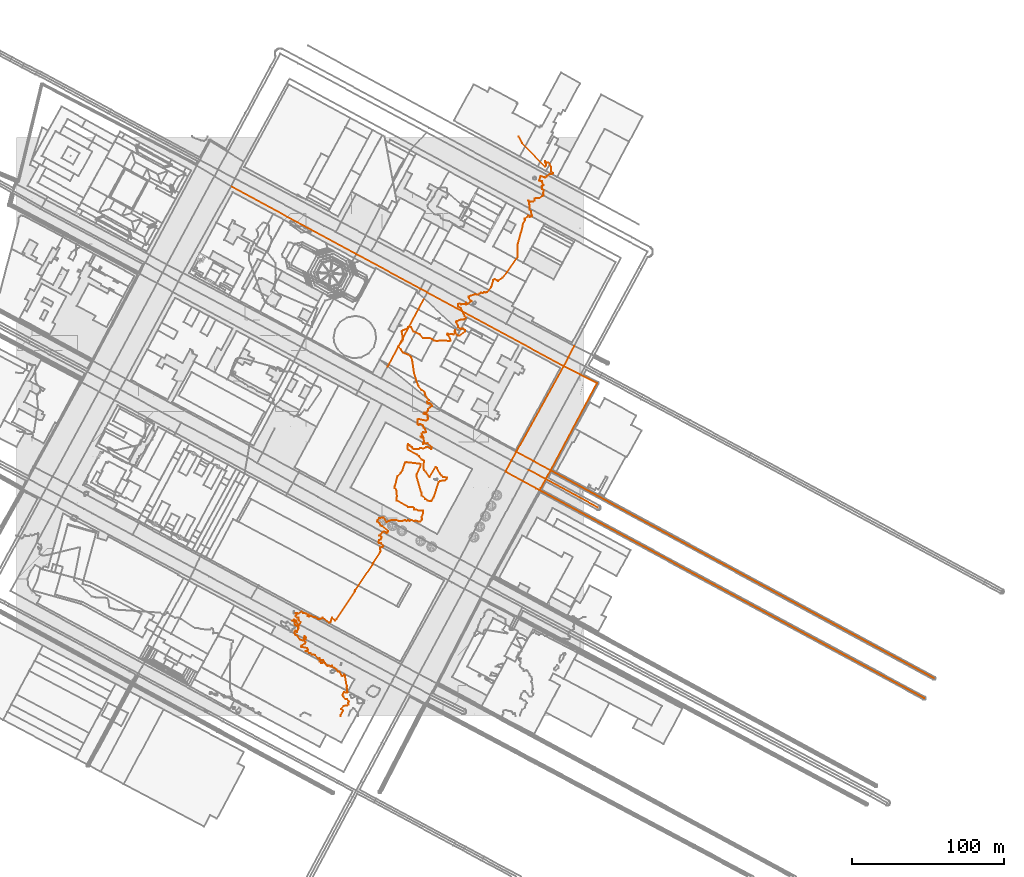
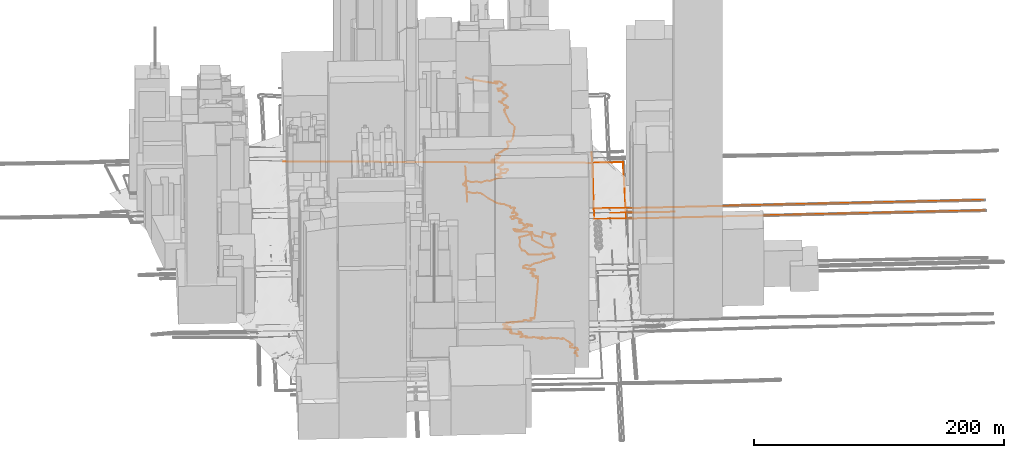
# Not in any storey, part 66 of 76: 14 proxies.
"""IFC2X3 model written with IfcOpenShell, lengths in metres."""

import ifcopenshell
import ifcopenshell.guid

model = None  # the IFC model being written
_history = None  # IfcOwnerHistory: only IFC2X3 demands one
_inside = {}  # id of a spatial element -> (the spatial element, [elements in it])
_under = {}  # id of a project, library or spatial element -> (it, [spatial elements below it])
_declared = {}  # id of a project -> (the project, [libraries it declares])
_typed = {}  # id of a type object -> (the type object, [elements of that type])
_made_of = {}  # id of a material, layer set ... -> (it, [elements and type objects made of it])


def new_model(schema):
    """Start an empty IFC model of exactly this schema.

    Asked for "IFC4X3", IfcOpenShell would pick the latest addendum, in which some entities
    have other attributes; the version numbers below select the first issue.
    IFC2X3 requires an IfcOwnerHistory on every rooted entity: one is made here for all.
    """
    global model, _history
    if schema == "IFC4X3":
        model = ifcopenshell.file(schema_version=(4, 3, 0, 0))
    else:
        model = ifcopenshell.file(schema=schema)
    _inside.clear()
    _under.clear()
    _declared.clear()
    _typed.clear()
    _made_of.clear()
    _history = None
    if model.schema == "IFC2X3":
        org = make("IfcOrganization", Name="unknown")
        user = make(
            "IfcPersonAndOrganization",
            ThePerson=make("IfcPerson", FamilyName="unknown"),
            TheOrganization=org,
        )
        app = make(
            "IfcApplication",
            ApplicationDeveloper=org,
            Version="unknown",
            ApplicationFullName="unknown",
            ApplicationIdentifier="unknown",
        )
        _history = make(
            "IfcOwnerHistory",
            OwningUser=user,
            OwningApplication=app,
            ChangeAction="ADDED",
            CreationDate=0,
        )
    return model


def make(cls, **values):
    """One entity of the class cls with the attributes given. An attribute that is None is left unset."""
    return model.create_entity(
        cls, **{name: value for name, value in values.items() if value is not None}
    )


def entity(cls, *values):
    """Any entity or typed value of the class cls, its attributes in the order of the schema. None: left unset."""
    e = model.create_entity(cls)
    for i, value in enumerate(values):
        if value is not None:
            e[i] = value
    return e


def rooted(cls, **values):
    """An entity with a GlobalId (a new one), such as an element, a storey or a relation."""
    return make(cls, GlobalId=ifcopenshell.guid.new(), OwnerHistory=_history, **values)


def si_unit(unit_type, name, prefix=None):
    """IfcSIUnit, for example si_unit("LENGTHUNIT", "METRE", prefix="MILLI")."""
    return make("IfcSIUnit", UnitType=unit_type, Prefix=prefix, Name=name)


def assignment(units):
    """IfcUnitAssignment: the units of a project."""
    return None if units is None else make("IfcUnitAssignment", Units=units)


def point(xyz):
    """IfcCartesianPoint."""
    return None if xyz is None else make("IfcCartesianPoint", Coordinates=xyz)


def direction(xyz):
    """IfcDirection."""
    return None if xyz is None else make("IfcDirection", DirectionRatios=xyz)


def frame(location, z_axis=None, x_axis=None):
    """IfcAxis2Placement3D, a coordinate frame: its origin and axes. An axis left out is left unset."""
    return make(
        "IfcAxis2Placement3D",
        Location=point(location),
        Axis=direction(z_axis),
        RefDirection=direction(x_axis),
    )


def origin_with_axes():
    """The frame at (0, 0, 0) with the z axis (0, 0, 1) and the x axis (1, 0, 0) written out."""
    return frame((0.0, 0.0, 0.0), z_axis=(0.0, 0.0, 1.0), x_axis=(1.0, 0.0, 0.0))


def place(relative_to, where):
    """IfcLocalPlacement: puts the frame where relative to a parent placement (None: the world)."""
    return make(
        "IfcLocalPlacement", PlacementRelTo=relative_to, RelativePlacement=where
    )


def context(
    kind, dimensions, precision=None, world=None, true_north=None, identifier=None
):
    """IfcGeometricRepresentationContext, for example the 3D "Model" context."""
    return make(
        "IfcGeometricRepresentationContext",
        ContextIdentifier=identifier,
        ContextType=kind,
        CoordinateSpaceDimension=dimensions,
        Precision=precision,
        WorldCoordinateSystem=world,
        TrueNorth=true_north,
    )


def subcontext(parent, identifier, kind, view, scale=None):
    """IfcGeometricRepresentationSubContext, for example "Body" below "Model"."""
    return make(
        "IfcGeometricRepresentationSubContext",
        ContextIdentifier=identifier,
        ContextType=kind,
        ParentContext=parent,
        TargetScale=scale,
        TargetView=view,
    )


def project(units=None, contexts=None):
    """IfcProject with its units and contexts."""
    return rooted(
        "IfcProject",
        Name="project",
        RepresentationContexts=contexts,
        UnitsInContext=assignment(units),
    )


def shape(context_of_items, identifier, shape_type, items):
    """IfcShapeRepresentation: the items that make up one representation, for example the "Body"."""
    return make(
        "IfcShapeRepresentation",
        ContextOfItems=context_of_items,
        RepresentationIdentifier=identifier,
        RepresentationType=shape_type,
        Items=items,
    )


def made_of(thing, what):
    """Note that an element or type object is made of a material, layer set ...; save() writes the relation."""
    if what is not None:
        _made_of.setdefault(what.id(), (what, []))[1].append(thing)
    return thing


def element(
    cls,
    number,
    at=None,
    inside=None,
    cuts=None,
    type_object=None,
    material=None,
    context=None,
    identifier="Body",
    shape_type=None,
    held_by="IfcProductDefinitionShape",
    body=None,
    shapes=None,
    **own,
):
    """One element of the class cls, such as IfcWall. Its Tag is "e" and its number.

    at: its placement. inside: the storey or other place that contains it. cuts: it is an
    opening in that element (IfcRelVoidsElement). A single representation is given by context,
    identifier, shape_type and body (its items); several are given by shapes. held_by: the class
    of the entity that holds the representations. save() writes the other relations.
    """
    e = rooted(cls, Tag="e%d" % number, ObjectPlacement=at, **own)
    if body is not None:
        shapes = [shape(context, identifier, shape_type, body)]
    if shapes is not None:
        e.Representation = make(held_by, Representations=shapes)
    if inside is not None:
        _inside.setdefault(inside.id(), (inside, []))[1].append(e)
    if cuts is not None:
        rooted(
            "IfcRelVoidsElement", RelatingBuildingElement=cuts, RelatedOpeningElement=e
        )
    if type_object is not None:
        _typed.setdefault(type_object.id(), (type_object, []))[1].append(e)
    return made_of(e, material)


def aggregate(whole, parts):
    """IfcRelAggregates: a whole, such as a stair, and the parts it consists of."""
    return rooted("IfcRelAggregates", RelatingObject=whole, RelatedObjects=parts)


def save(model, path):
    """Write the relations noted so far, then the file.

    IfcRelAggregates (storeys below a building ...), IfcRelContainedInSpatialStructure (elements
    in a storey), IfcRelDefinesByType, IfcRelAssociatesMaterial and IfcRelDeclares: one each for
    every whole, place, type object, material and project.
    """
    for whole, parts in _under.values():
        aggregate(whole, parts)
    for where, things in _inside.values():
        rooted(
            "IfcRelContainedInSpatialStructure",
            RelatedElements=things,
            RelatingStructure=where,
        )
    for kind, things in _typed.values():
        rooted("IfcRelDefinesByType", RelatedObjects=things, RelatingType=kind)
    for what, things in _made_of.values():
        rooted("IfcRelAssociatesMaterial", RelatedObjects=things, RelatingMaterial=what)
    for by, libraries in _declared.values():
        rooted("IfcRelDeclares", RelatingContext=by, RelatedDefinitions=libraries)
    model.write(path)


model = new_model("IFC2X3")

# Units and contexts
model_context = context("Model", 3, precision=1e-05, world=origin_with_axes())
body_context = subcontext(model_context, "Body", "Model", "MODEL_VIEW")
ifc_project = project(units=[si_unit("AREAUNIT", "SQUARE_METRE"), si_unit("LENGTHUNIT", "METRE")], contexts=[model_context])

# Proxies
proxy_1_placement = place(None, frame((343.5461814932, 147.7008434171, 18.554908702), z_axis=(0.0, 0.0, 1.0), x_axis=(1.0, 0.0, 0.0)))
element("IfcBuildingElementProxy", 1, at=proxy_1_placement, Name="Route 9", ObjectType="NOTDEFINED", context=body_context, shape_type="GeometricCurveSet", body=[
    entity("IfcGeometricCurveSet", [entity("IfcPolyline", [entity("IfcCartesianPoint", [0.0, 0.0, 0.0]), entity("IfcCartesianPoint", [252.587789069, -136.5204956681, 2.2316327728])])]),
])
proxy_2_placement = place(None, frame((243.8072842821, 229.129540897, 20.5381399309), z_axis=(0.0, 0.0, 1.0), x_axis=(1.0, 0.0, 0.0)))
element("IfcBuildingElementProxy", 2, at=proxy_2_placement, Name="Route 24", ObjectType="NOTDEFINED", context=body_context, shape_type="GeometricCurveSet", body=[
    entity("IfcGeometricCurveSet", [entity("IfcPolyline", [entity("IfcCartesianPoint", [23.8534519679, 44.4312332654, 0.0951424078]), entity("IfcCartesianPoint", [0.0, 0.0, 0.0])])]),
])
proxy_3_placement = place(None, frame((359.4380788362, 229.1656153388, 17.998411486), z_axis=(0.0, 0.0, 1.0), x_axis=(1.0, 0.0, 0.0)))
element("IfcBuildingElementProxy", 3, at=proxy_3_placement, Name="Route 25", ObjectType="NOTDEFINED", context=body_context, shape_type="GeometricCurveSet", body=[
    entity("IfcGeometricCurveSet", [entity("IfcPolyline", [entity("IfcCartesianPoint", [0.0, 0.0, 0.0]), entity("IfcCartesianPoint", [2.9632162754, 5.7743906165, 0.0389920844]), entity("IfcCartesianPoint", [6.8428682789, 13.3136170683, 0.0266526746])])]),
])
proxy_4_placement = place(None, frame((359.4380788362, 229.1656153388, 17.998411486), z_axis=(0.0, 0.0, 1.0), x_axis=(1.0, 0.0, 0.0)))
element("IfcBuildingElementProxy", 4, at=proxy_4_placement, Name="Route 27", ObjectType="NOTDEFINED", context=body_context, shape_type="GeometricCurveSet", body=[
    entity("IfcGeometricCurveSet", [entity("IfcPolyline", [entity("IfcCartesianPoint", [21.815906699, -11.1367453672, -0.0677879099]), entity("IfcCartesianPoint", [10.9970858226, -5.6117510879, -0.0938720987]), entity("IfcCartesianPoint", [0.0, 0.0, 0.0])])]),
])
proxy_5_placement = place(None, frame((328.3016600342, 172.9918901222, 18.5502752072), z_axis=(0.0, 0.0, 1.0), x_axis=(1.0, 0.0, 0.0)))
element("IfcBuildingElementProxy", 5, at=proxy_5_placement, Name="Route 30", ObjectType="NOTDEFINED", context=body_context, shape_type="GeometricCurveSet", body=[
    entity("IfcGeometricCurveSet", [entity("IfcPolyline", [entity("IfcCartesianPoint", [0.0, 0.0, 0.0]), entity("IfcCartesianPoint", [31.136418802, 56.1737252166, -0.5518637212])])]),
])
proxy_6_placement = place(None, frame((350.7216964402, 160.729657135, 18.2953713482), z_axis=(0.0, 0.0, 1.0), x_axis=(1.0, 0.0, 0.0)))
element("IfcBuildingElementProxy", 6, at=proxy_6_placement, Name="Route 32", ObjectType="NOTDEFINED", context=body_context, shape_type="GeometricCurveSet", body=[
    entity("IfcGeometricCurveSet", [entity("IfcPolyline", [entity("IfcCartesianPoint", [0.0, 0.0, 0.0]), entity("IfcCartesianPoint", [30.532289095, 57.2992128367, -0.3647477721])])]),
])
proxy_7_placement = place(None, frame((328.3016600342, 172.9918901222, 18.5502752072), z_axis=(0.0, 0.0, 1.0), x_axis=(1.0, 0.0, 0.0)))
element("IfcBuildingElementProxy", 7, at=proxy_7_placement, Name="Route 33", ObjectType="NOTDEFINED", context=body_context, shape_type="GeometricCurveSet", body=[
    entity("IfcGeometricCurveSet", [entity("IfcPolyline", [entity("IfcCartesianPoint", [22.420036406, -12.2622329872, -0.254903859]), entity("IfcCartesianPoint", [11.2312390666, -6.1419798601, -0.2005950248]), entity("IfcCartesianPoint", [0.0, 0.0, 0.0])])]),
])
proxy_8_placement = place(None, frame((321.1261189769, 159.9630983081, 18.5373519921), z_axis=(0.0, 0.0, 1.0), x_axis=(1.0, 0.0, 0.0)))
element("IfcBuildingElementProxy", 8, at=proxy_8_placement, Name="Route 34", ObjectType="NOTDEFINED", context=body_context, shape_type="GeometricCurveSet", body=[
    entity("IfcGeometricCurveSet", [entity("IfcPolyline", [entity("IfcCartesianPoint", [7.1755410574, 13.0287918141, 0.0129232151]), entity("IfcCartesianPoint", [3.9598356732, 7.1848630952, 0.0844437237]), entity("IfcCartesianPoint", [0.0, 0.0, 0.0])])]),
])
proxy_9_placement = place(None, frame((343.5461814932, 147.7008434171, 18.554908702), z_axis=(0.0, 0.0, 1.0), x_axis=(1.0, 0.0, 0.0)))
element("IfcBuildingElementProxy", 9, at=proxy_9_placement, Name="Route 35", ObjectType="NOTDEFINED", context=body_context, shape_type="GeometricCurveSet", body=[
    entity("IfcGeometricCurveSet", [entity("IfcPolyline", [entity("IfcCartesianPoint", [0.0, 0.0, 0.0]), entity("IfcCartesianPoint", [0.8599609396, 1.5421280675, -0.058279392]), entity("IfcCartesianPoint", [4.0672192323, 7.3859668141, -0.223666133]), entity("IfcCartesianPoint", [7.175514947, 13.0288137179, -0.2595373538])])]),
])
proxy_10_placement = place(None, frame((321.1261189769, 159.9630983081, 18.5373519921), z_axis=(0.0, 0.0, 1.0), x_axis=(1.0, 0.0, 0.0)))
element("IfcBuildingElementProxy", 10, at=proxy_10_placement, Name="Route 36", ObjectType="NOTDEFINED", context=body_context, shape_type="GeometricCurveSet", body=[
    entity("IfcGeometricCurveSet", [entity("IfcPolyline", [entity("IfcCartesianPoint", [0.0, 0.0, 0.0]), entity("IfcCartesianPoint", [11.3247430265, -6.1964133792, 0.0209787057]), entity("IfcCartesianPoint", [20.1512152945, -10.9786132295, 0.0351601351]), entity("IfcCartesianPoint", [22.4200625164, -12.262254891, 0.0175567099])])]),
])
proxy_11_placement = place(None, frame((336.3839471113, 161.0733675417, 18.4356480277), z_axis=(0.0, 0.0, 1.0), x_axis=(1.0, 0.0, 0.0)))
element("IfcBuildingElementProxy", 11, at=proxy_11_placement, Name="Route 38", ObjectType="NOTDEFINED", context=body_context, shape_type="GeometricCurveSet", body=[
    entity("IfcGeometricCurveSet", [entity("IfcPolyline", [entity("IfcCartesianPoint", [45.755176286, -24.8023490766, 0.2234559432]), entity("IfcCartesianPoint", [11.2294536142, -5.9865573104, -0.1044054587]), entity("IfcCartesianPoint", [0.0, 0.0, 0.0])])]),
])
proxy_12_placement = place(None, frame((350.7216964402, 160.729657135, 18.2953713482), z_axis=(0.0, 0.0, 1.0), x_axis=(1.0, 0.0, 0.0)))
element("IfcBuildingElementProxy", 12, at=proxy_12_placement, Name="Route 51", ObjectType="NOTDEFINED", context=body_context, shape_type="GeometricCurveSet", body=[
    entity("IfcGeometricCurveSet", [entity("IfcPolyline", [entity("IfcCartesianPoint", [251.8697860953, -136.5064283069, 2.5246274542]), entity("IfcCartesianPoint", [0.0, 0.0, 0.0])])]),
])
proxy_13_placement = place(None, frame((140.8917054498, 347.3043903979, 24.1376328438), z_axis=(0.0, 0.0, 1.0), x_axis=(1.0, 0.0, 0.0)))
element("IfcBuildingElementProxy", 13, at=proxy_13_placement, Name="Route 74", ObjectType="NOTDEFINED", context=body_context, shape_type="GeometricCurveSet", body=[
    entity("IfcGeometricCurveSet", [entity("IfcPolyline", [entity("IfcCartesianPoint", [0.0, 0.0, 0.0]), entity("IfcCartesianPoint", [82.1866297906, -44.4305326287, -2.1400279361]), entity("IfcCartesianPoint", [124.5248275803, -67.3193193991, -3.4787028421]), entity("IfcCartesianPoint", [128.9420568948, -69.6993096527, -3.6122055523]), entity("IfcCartesianPoint", [218.5463733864, -118.138775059, -6.1392213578])])]),
])
proxy_14_placement = place(None, frame((181.0488597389, 62.0447113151, 20.0), z_axis=(0.0, 0.0, 1.0), x_axis=(1.0, 0.0, 0.0)))
element("IfcBuildingElementProxy", 14, at=proxy_14_placement, Name="Contour 20.0 m", ObjectType="NOTDEFINED", context=body_context, shape_type="GeometricCurveSet", body=[
    entity("IfcGeometricCurveSet", [entity("IfcPolyline", [entity("IfcCartesianPoint", [148.9206068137, 318.5, 0.0]), entity("IfcCartesianPoint", [148.9206068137, 318.0, 0.0]), entity("IfcCartesianPoint", [151.1426430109, 313.8003356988, 0.0]), entity("IfcCartesianPoint", [166.1426430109, 298.4002059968, 0.0]), entity("IfcCartesianPoint", [166.7426201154, 299.0, 0.0]), entity("IfcCartesianPoint", [166.976034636, 300.0, 0.0]), entity("IfcCartesianPoint", [166.0178099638, 301.0, 0.0]), entity("IfcCartesianPoint", [166.1426430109, 301.9988549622, 0.0]), entity("IfcCartesianPoint", [167.1426430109, 301.0001907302, 0.0]), entity("IfcCartesianPoint", [168.1426430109, 301.0001907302, 0.0]), entity("IfcCartesianPoint", [169.1428337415, 300.0, 0.0]), entity("IfcCartesianPoint", [170.1426906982, 298.0, 0.0]), entity("IfcCartesianPoint", [170.1428973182, 295.0, 0.0]), entity("IfcCartesianPoint", [171.3926430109, 294.0, 0.0]), entity("IfcCartesianPoint", [171.1426430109, 293.6667726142, 0.0]), entity("IfcCartesianPoint", [170.1426430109, 293.400091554, 0.0]), entity("IfcCartesianPoint", [169.1426430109, 293.39999237, 0.0]), entity("IfcCartesianPoint", [167.142833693, 292.0, 0.0]), entity("IfcCartesianPoint", [167.1426430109, 291.625, 0.0]), entity("IfcCartesianPoint", [166.1426430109, 291.2001525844, 0.0]), entity("IfcCartesianPoint", [163.1426430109, 291.9998569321, 0.0]), entity("IfcCartesianPoint", [162.1437867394, 289.0, 0.0]), entity("IfcCartesianPoint", [164.1426430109, 288.6667726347, 0.0]), entity("IfcCartesianPoint", [164.54272695, 287.0, 0.0]), entity("IfcCartesianPoint", [165.1424524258, 286.0, 0.0]), entity("IfcCartesianPoint", [164.1426430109, 285.499618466, 0.0]), entity("IfcCartesianPoint", [164.0177562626, 285.0, 0.0]), entity("IfcCartesianPoint", [164.1426430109, 283.6669634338, 0.0]), entity("IfcCartesianPoint", [165.1430241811, 283.0, 0.0]), entity("IfcCartesianPoint", [165.309230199, 282.0, 0.0]), entity("IfcCartesianPoint", [164.8093997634, 281.0, 0.0]), entity("IfcCartesianPoint", [165.142677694, 280.0, 0.0]), entity("IfcCartesianPoint", [164.5425666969, 279.0, 0.0]), entity("IfcCartesianPoint", [162.1426430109, 277.5001072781, 0.0]), entity("IfcCartesianPoint", [160.1426430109, 277.6666825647, 0.0]), entity("IfcCartesianPoint", [159.1426430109, 277.1426702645, 0.0]), entity("IfcCartesianPoint", [159.3926668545, 276.0, 0.0]), entity("IfcCartesianPoint", [158.1426430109, 275.416740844, 0.0]), entity("IfcCartesianPoint", [156.1426430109, 275.1428960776, 0.0]), entity("IfcCartesianPoint", [155.2854222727, 276.0, 0.0]), entity("IfcCartesianPoint", [154.9428870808, 276.0, 0.0]), entity("IfcCartesianPoint", [155.8094579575, 275.0, 0.0]), entity("IfcCartesianPoint", [155.5714246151, 274.0, 0.0]), entity("IfcCartesianPoint", [156.031651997, 273.0, 0.0]), entity("IfcCartesianPoint", [156.1429862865, 270.0, 0.0]), entity("IfcCartesianPoint", [156.8570454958, 269.0, 0.0]), entity("IfcCartesianPoint", [157.5425895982, 266.0, 0.0]), entity("IfcCartesianPoint", [157.1426430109, 265.5001192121, 0.0]), entity("IfcCartesianPoint", [156.1426430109, 265.2501907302, 0.0]), entity("IfcCartesianPoint", [155.1426430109, 265.9998093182, 0.0]), entity("IfcCartesianPoint", [152.6429052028, 264.0, 0.0]), entity("IfcCartesianPoint", [152.9760134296, 263.0, 0.0]), entity("IfcCartesianPoint", [151.6428098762, 261.0, 0.0]), entity("IfcCartesianPoint", [151.3427193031, 259.0, 0.0]), entity("IfcCartesianPoint", [148.1427860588, 247.0, 0.0]), entity("IfcCartesianPoint", [148.1426906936, 239.0, 0.0]), entity("IfcCartesianPoint", [141.1426906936, 229.0, 0.0]), entity("IfcCartesianPoint", [138.1426430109, 225.2500119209, 0.0]), entity("IfcCartesianPoint", [135.1426430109, 223.2501430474, 0.0]), entity("IfcCartesianPoint", [134.1426430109, 223.6002288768, 0.0]), entity("IfcCartesianPoint", [133.1426430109, 224.5000476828, 0.0]), entity("IfcCartesianPoint", [132.1426430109, 223.6663064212, 0.0]), entity("IfcCartesianPoint", [130.7426735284, 219.0, 0.0]), entity("IfcCartesianPoint", [128.1426430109, 215.9001030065, 0.0]), entity("IfcCartesianPoint", [127.1426430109, 215.6667938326, 0.0]), entity("IfcCartesianPoint", [126.1426430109, 215.9999046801, 0.0]), entity("IfcCartesianPoint", [125.1426430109, 215.2501668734, 0.0]), entity("IfcCartesianPoint", [124.1426430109, 215.4286337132, 0.0]), entity("IfcCartesianPoint", [123.1426763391, 215.0, 0.0]), entity("IfcCartesianPoint", [122.1426430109, 214.1429778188, 0.0]), entity("IfcCartesianPoint", [120.1426430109, 214.4000381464, 0.0]), entity("IfcCartesianPoint", [115.8095215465, 213.0, 0.0]), entity("IfcCartesianPoint", [116.1426430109, 211.8003204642, 0.0]), entity("IfcCartesianPoint", [117.1426430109, 210.4001221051, 0.0]), entity("IfcCartesianPoint", [117.8093520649, 210.0, 0.0]), entity("IfcCartesianPoint", [115.1426430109, 208.0000545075, 0.0]), entity("IfcCartesianPoint", [114.1426430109, 209.083265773, 0.0]), entity("IfcCartesianPoint", [114.1426430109, 208.5000954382, 0.0]), entity("IfcCartesianPoint", [115.1422614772, 208.0, 0.0]), entity("IfcCartesianPoint", [114.1426430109, 207.7501192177, 0.0]), entity("IfcCartesianPoint", [113.1426430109, 208.0000762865, 0.0]), entity("IfcCartesianPoint", [111.1426430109, 207.8001449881, 0.0]), entity("IfcCartesianPoint", [110.1426430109, 208.2222622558, 0.0]), entity("IfcCartesianPoint", [108.8570377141, 208.0, 0.0]), entity("IfcCartesianPoint", [109.1426430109, 206.3339266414, 0.0]), entity("IfcCartesianPoint", [111.1426430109, 205.0002860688, 0.0]), entity("IfcCartesianPoint", [113.4427441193, 200.0, 0.0]), entity("IfcCartesianPoint", [114.3925953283, 199.0, 0.0]), entity("IfcCartesianPoint", [113.1426430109, 198.0001144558, 0.0]), entity("IfcCartesianPoint", [110.1426430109, 197.6000915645, 0.0]), entity("IfcCartesianPoint", [108.1426430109, 196.6664970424, 0.0]), entity("IfcCartesianPoint", [107.8571000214, 196.0, 0.0]), entity("IfcCartesianPoint", [108.9760982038, 194.0, 0.0]), entity("IfcCartesianPoint", [109.1426430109, 193.0011439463, 0.0]), entity("IfcCartesianPoint", [110.1429291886, 192.0, 0.0]), entity("IfcCartesianPoint", [111.1426430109, 191.7001115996, 0.0]), entity("IfcCartesianPoint", [112.1426430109, 191.8889548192, 0.0]), entity("IfcCartesianPoint", [113.6427383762, 191.0, 0.0]), entity("IfcCartesianPoint", [113.5711871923, 190.0, 0.0]), entity("IfcCartesianPoint", [110.1426430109, 187.333453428, 0.0]), entity("IfcCartesianPoint", [109.1426430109, 187.2502205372, 0.0]), entity("IfcCartesianPoint", [108.1426430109, 188.0001907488, 0.0]), entity("IfcCartesianPoint", [107.2854651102, 189.0, 0.0]), entity("IfcCartesianPoint", [107.1426430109, 190.7496900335, 0.0]), entity("IfcCartesianPoint", [106.8428070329, 190.0, 0.0]), entity("IfcCartesianPoint", [106.9427955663, 189.0, 0.0]), entity("IfcCartesianPoint", [106.1426430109, 188.0004287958, 0.0]), entity("IfcCartesianPoint", [104.1426430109, 188.3929006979, 0.0]), entity("IfcCartesianPoint", [103.1426430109, 188.0001213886, 0.0]), entity("IfcCartesianPoint", [102.1426430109, 188.7499522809, 0.0]), entity("IfcCartesianPoint", [101.8095287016, 188.0, 0.0]), entity("IfcCartesianPoint", [103.5713117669, 186.0, 0.0]), entity("IfcCartesianPoint", [104.1426430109, 183.9999750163, 0.0]), entity("IfcCartesianPoint", [103.1426430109, 183.666783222, 0.0]), entity("IfcCartesianPoint", [99.1426430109, 184.1251698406, 0.0]), entity("IfcCartesianPoint", [95.1426430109, 183.7648161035, 0.0]), entity("IfcCartesianPoint", [93.1426430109, 183.9168189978, 0.0]), entity("IfcCartesianPoint", [91.8095851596, 185.0, 0.0]), entity("IfcCartesianPoint", [90.1426430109, 185.7500834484, 0.0]), entity("IfcCartesianPoint", [86.1426430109, 185.5002145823, 0.0]), entity("IfcCartesianPoint", [84.1429481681, 188.0, 0.0]), entity("IfcCartesianPoint", [79.6428814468, 190.0, 0.0]), entity("IfcCartesianPoint", [78.1426430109, 192.7502145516, 0.0]), entity("IfcCartesianPoint", [77.1426430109, 193.3333863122, 0.0]), entity("IfcCartesianPoint", [76.1426430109, 192.8571817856, 0.0]), entity("IfcCartesianPoint", [75.1426430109, 191.6000915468, 0.0]), entity("IfcCartesianPoint", [73.1424523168, 191.0, 0.0]), entity("IfcCartesianPoint", [72.1426430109, 190.3331213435, 0.0]), entity("IfcCartesianPoint", [71.9999182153, 190.0, 0.0]), entity("IfcCartesianPoint", [72.8093096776, 185.0, 0.0]), entity("IfcCartesianPoint", [72.4092918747, 184.0, 0.0]), entity("IfcCartesianPoint", [69.5873441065, 180.0, 0.0]), entity("IfcCartesianPoint", [71.5973319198, 178.0, 0.0]), entity("IfcCartesianPoint", [72.7679291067, 176.0, 0.0]), entity("IfcCartesianPoint", [76.1426430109, 174.7144569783, 0.0]), entity("IfcCartesianPoint", [78.2678307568, 173.0, 0.0]), entity("IfcCartesianPoint", [78.9322260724, 171.0, 0.0]), entity("IfcCartesianPoint", [80.0375394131, 163.0, 0.0]), entity("IfcCartesianPoint", [82.9323164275, 154.0, 0.0]), entity("IfcCartesianPoint", [85.1426430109, 151.5791138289, 0.0]), entity("IfcCartesianPoint", [87.1721473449, 150.0, 0.0]), entity("IfcCartesianPoint", [87.5177398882, 148.0, 0.0]), entity("IfcCartesianPoint", [89.8093626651, 145.0, 0.0]), entity("IfcCartesianPoint", [88.8094015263, 144.0, 0.0]), entity("IfcCartesianPoint", [89.1426430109, 142.6668574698, 0.0]), entity("IfcCartesianPoint", [90.1426430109, 142.8889878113, 0.0]), entity("IfcCartesianPoint", [91.4761988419, 142.0, 0.0]), entity("IfcCartesianPoint", [91.9608863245, 141.0, 0.0]), entity("IfcCartesianPoint", [90.3092142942, 140.0, 0.0]), entity("IfcCartesianPoint", [89.4283611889, 139.0, 0.0]), entity("IfcCartesianPoint", [89.1426430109, 137.8000457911, 0.0]), entity("IfcCartesianPoint", [88.1426430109, 136.4999749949, 0.0]), entity("IfcCartesianPoint", [87.1426430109, 136.666497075, 0.0]), entity("IfcCartesianPoint", [86.4764848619, 136.0, 0.0]), entity("IfcCartesianPoint", [87.1426430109, 135.6668256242, 0.0]), entity("IfcCartesianPoint", [89.1426430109, 135.5118560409, 0.0]), entity("IfcCartesianPoint", [88.8700670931, 134.0, 0.0]), entity("IfcCartesianPoint", [89.3532110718, 133.0, 0.0]), entity("IfcCartesianPoint", [89.1426430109, 132.1998702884, 0.0]), entity("IfcCartesianPoint", [88.1426430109, 131.5000953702, 0.0]), entity("IfcCartesianPoint", [86.1426430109, 131.666815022, 0.0]), entity("IfcCartesianPoint", [83.1426430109, 132.5000476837, 0.0]), entity("IfcCartesianPoint", [82.5426964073, 132.0, 0.0]), entity("IfcCartesianPoint", [82.3093785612, 131.0, 0.0]), entity("IfcCartesianPoint", [82.3929291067, 129.0, 0.0]), entity("IfcCartesianPoint", [83.1426430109, 128.5002066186, 0.0]), entity("IfcCartesianPoint", [84.1426430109, 129.166687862, 0.0]), entity("IfcCartesianPoint", [86.1426430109, 128.1250894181, 0.0]), entity("IfcCartesianPoint", [86.4761035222, 127.0, 0.0]), entity("IfcCartesianPoint", [87.3926430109, 126.0, 0.0]), entity("IfcCartesianPoint", [87.892607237, 124.0, 0.0]), entity("IfcCartesianPoint", [87.1426430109, 123.6251162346, 0.0]), entity("IfcCartesianPoint", [86.1426430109, 123.8333916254, 0.0]), entity("IfcCartesianPoint", [85.1427574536, 123.0, 0.0]), entity("IfcCartesianPoint", [85.2854651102, 122.0, 0.0]), entity("IfcCartesianPoint", [84.309516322, 121.0, 0.0]), entity("IfcCartesianPoint", [85.1426430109, 120.2858816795, 0.0]), entity("IfcCartesianPoint", [86.1426430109, 120.9994282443, 0.0]), entity("IfcCartesianPoint", [86.4760399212, 120.0, 0.0]), entity("IfcCartesianPoint", [86.542726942, 118.0, 0.0]), entity("IfcCartesianPoint", [85.8927145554, 117.0, 0.0]), entity("IfcCartesianPoint", [86.1426430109, 116.0001908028, 0.0]), entity("IfcCartesianPoint", [87.1426430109, 116.6000915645, 0.0]), entity("IfcCartesianPoint", [88.1426430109, 116.4001983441, 0.0]), entity("IfcCartesianPoint", [89.1426430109, 116.7500834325, 0.0]), entity("IfcCartesianPoint", [91.6982433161, 114.0, 0.0]), entity("IfcCartesianPoint", [91.6425714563, 113.0, 0.0]), entity("IfcCartesianPoint", [91.1426430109, 112.6668891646, 0.0]), entity("IfcCartesianPoint", [89.1429608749, 114.0, 0.0]), entity("IfcCartesianPoint", [88.1426430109, 114.000057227, 0.0]), entity("IfcCartesianPoint", [86.1426430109, 113.0004765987, 0.0]), entity("IfcCartesianPoint", [84.1426430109, 113.4545627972, 0.0]), entity("IfcCartesianPoint", [83.1426430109, 112.6667620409, 0.0]), entity("IfcCartesianPoint", [80.1426430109, 112.6670478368, 0.0]), entity("IfcCartesianPoint", [79.1426430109, 112.9168971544, 0.0]), entity("IfcCartesianPoint", [78.8096485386, 114.0, 0.0]), entity("IfcCartesianPoint", [78.1426430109, 114.2502860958, 0.0]), entity("IfcCartesianPoint", [77.1426430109, 115.333531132, 0.0]), entity("IfcCartesianPoint", [76.1426430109, 115.8887970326, 0.0]), entity("IfcCartesianPoint", [75.8227525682, 115.0, 0.0]), entity("IfcCartesianPoint", [75.8428089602, 113.0, 0.0]), entity("IfcCartesianPoint", [76.4763224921, 112.0, 0.0]), entity("IfcCartesianPoint", [81.976188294, 109.0, 0.0]), entity("IfcCartesianPoint", [83.3428909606, 108.0, 0.0]), entity("IfcCartesianPoint", [85.1426430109, 105.7502622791, 0.0]), entity("IfcCartesianPoint", [86.8093520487, 105.0, 0.0]), entity("IfcCartesianPoint", [86.3426926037, 103.0, 0.0]), entity("IfcCartesianPoint", [86.3927813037, 100.0, 0.0]), entity("IfcCartesianPoint", [86.7429138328, 99.0, 0.0]), entity("IfcCartesianPoint", [87.7428108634, 98.0, 0.0]), entity("IfcCartesianPoint", [90.1426430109, 94.500476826, 0.0]), entity("IfcCartesianPoint", [94.1426430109, 100.9999046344, 0.0]), entity("IfcCartesianPoint", [95.1426430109, 100.2223399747, 0.0]), entity("IfcCartesianPoint", [97.1426430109, 96.555875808, 0.0]), entity("IfcCartesianPoint", [98.1426430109, 95.250250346, 0.0]), entity("IfcCartesianPoint", [99.1426430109, 94.4168680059, 0.0]), entity("IfcCartesianPoint", [101.642738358, 94.0, 0.0]), entity("IfcCartesianPoint", [101.542643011, 93.0, 0.0]), entity("IfcCartesianPoint", [100.1426430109, 92.2001106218, 0.0]), entity("IfcCartesianPoint", [97.1426430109, 91.7693064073, 0.0]), entity("IfcCartesianPoint", [96.2335536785, 91.0, 0.0]), entity("IfcCartesianPoint", [92.8926072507, 81.0, 0.0]), entity("IfcCartesianPoint", [91.6425953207, 79.0, 0.0]), entity("IfcCartesianPoint", [91.1426430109, 78.6667443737, 0.0]), entity("IfcCartesianPoint", [90.1426430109, 78.5001430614, 0.0]), entity("IfcCartesianPoint", [89.1426430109, 78.8573063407, 0.0]), entity("IfcCartesianPoint", [87.4762306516, 80.0, 0.0]), entity("IfcCartesianPoint", [85.1426430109, 82.2506319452, 0.0]), entity("IfcCartesianPoint", [84.8819140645, 84.0, 0.0]), entity("IfcCartesianPoint", [81.7310439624, 95.0, 0.0]), entity("IfcCartesianPoint", [81.8269681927, 96.0, 0.0]), entity("IfcCartesianPoint", [84.475994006, 102.0, 0.0]), entity("IfcCartesianPoint", [84.4760293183, 103.0, 0.0]), entity("IfcCartesianPoint", [75.1426430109, 104.1000991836, 0.0]), entity("IfcCartesianPoint", [74.1426430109, 103.7140132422, 0.0]), entity("IfcCartesianPoint", [72.4584784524, 99.0, 0.0]), entity("IfcCartesianPoint", [71.2603065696, 97.0, 0.0]), entity("IfcCartesianPoint", [69.3331862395, 95.0, 0.0]), entity("IfcCartesianPoint", [68.8818704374, 94.0, 0.0]), entity("IfcCartesianPoint", [67.4609446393, 88.0, 0.0]), entity("IfcCartesianPoint", [67.3930720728, 87.0, 0.0]), entity("IfcCartesianPoint", [68.4155011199, 86.0, 0.0]), entity("IfcCartesianPoint", [68.6043044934, 85.0, 0.0]), entity("IfcCartesianPoint", [68.8350590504, 82.0, 0.0]), entity("IfcCartesianPoint", [68.4761299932, 80.0, 0.0]), entity("IfcCartesianPoint", [68.7429977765, 79.0, 0.0]), entity("IfcCartesianPoint", [76.1426430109, 74.7649051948, 0.0]), entity("IfcCartesianPoint", [77.1426430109, 74.5186169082, 0.0]), entity("IfcCartesianPoint", [79.1426430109, 74.7000572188, 0.0]), entity("IfcCartesianPoint", [80.0177771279, 74.0, 0.0]), entity("IfcCartesianPoint", [80.1426430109, 73.0019058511, 0.0]), entity("IfcCartesianPoint", [81.1426430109, 73.1429622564, 0.0]), entity("IfcCartesianPoint", [83.1426430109, 72.333481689, 0.0]), entity("IfcCartesianPoint", [86.1426430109, 72.2500357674, 0.0]), entity("IfcCartesianPoint", [86.1426668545, 71.0, 0.0]), entity("IfcCartesianPoint", [84.9999182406, 68.0, 0.0]), entity("IfcCartesianPoint", [85.2677145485, 67.0, 0.0]), entity("IfcCartesianPoint", [85.1425158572, 66.0, 0.0]), entity("IfcCartesianPoint", [84.1426430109, 65.2501311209, 0.0]), entity("IfcCartesianPoint", [83.1426430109, 65.2001297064, 0.0]), entity("IfcCartesianPoint", [81.1426430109, 65.6667514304, 0.0]), entity("IfcCartesianPoint", [80.1426430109, 65.3336087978, 0.0]), entity("IfcCartesianPoint", [78.1426430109, 66.1666083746, 0.0]), entity("IfcCartesianPoint", [77.1426430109, 65.4001831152, 0.0]), entity("IfcCartesianPoint", [76.1426430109, 66.2000190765, 0.0]), entity("IfcCartesianPoint", [75.1426430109, 65.5001668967, 0.0]), entity("IfcCartesianPoint", [74.1426430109, 66.0000381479, 0.0]), entity("IfcCartesianPoint", [72.1426430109, 65.5001192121, 0.0]), entity("IfcCartesianPoint", [70.1426430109, 65.5001430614, 0.0]), entity("IfcCartesianPoint", [68.1426430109, 66.1818749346, 0.0]), entity("IfcCartesianPoint", [66.1426430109, 66.1667673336, 0.0]), entity("IfcCartesianPoint", [64.1426430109, 65.857170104, 0.0]), entity("IfcCartesianPoint", [62.1426430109, 64.9001716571, 0.0]), entity("IfcCartesianPoint", [60.1426430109, 67.6001296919, 0.0]), entity("IfcCartesianPoint", [59.1426430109, 67.818257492, 0.0]), entity("IfcCartesianPoint", [57.1426430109, 67.3750685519, 0.0]), entity("IfcCartesianPoint", [56.142712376, 66.0, 0.0]), entity("IfcCartesianPoint", [55.9428337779, 65.0, 0.0]), entity("IfcCartesianPoint", [57.3428337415, 64.0, 0.0]), entity("IfcCartesianPoint", [58.1426430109, 62.5004767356, 0.0]), entity("IfcCartesianPoint", [59.1430243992, 62.0, 0.0]), entity("IfcCartesianPoint", [62.8927264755, 59.0, 0.0]), entity("IfcCartesianPoint", [62.6424522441, 58.0, 0.0]), entity("IfcCartesianPoint", [62.1426430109, 57.6668573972, 0.0]), entity("IfcCartesianPoint", [60.1426430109, 58.666709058, 0.0]), entity("IfcCartesianPoint", [59.1426906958, 58.0, 0.0]), entity("IfcCartesianPoint", [58.1426430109, 56.4998568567, 0.0]), entity("IfcCartesianPoint", [57.1434060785, 56.0, 0.0]), entity("IfcCartesianPoint", [58.1426430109, 55.8572440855, 0.0]), entity("IfcCartesianPoint", [58.6881417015, 55.0, 0.0]), entity("IfcCartesianPoint", [58.5870639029, 54.0, 0.0]), entity("IfcCartesianPoint", [58.1426430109, 53.4286415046, 0.0]), entity("IfcCartesianPoint", [57.1427065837, 53.0, 0.0]), entity("IfcCartesianPoint", [56.6429766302, 52.0, 0.0]), entity("IfcCartesianPoint", [56.9762041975, 51.0, 0.0]), entity("IfcCartesianPoint", [58.4761035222, 51.0, 0.0]), entity("IfcCartesianPoint", [59.8927145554, 49.0, 0.0]), entity("IfcCartesianPoint", [59.1426430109, 48.2500715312, 0.0]), entity("IfcCartesianPoint", [57.6428337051, 48.0, 0.0]), entity("IfcCartesianPoint", [58.1427065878, 46.0, 0.0]), entity("IfcCartesianPoint", [57.8093732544, 45.0, 0.0]), entity("IfcCartesianPoint", [53.1427383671, 38.0, 0.0]), entity("IfcCartesianPoint", [52.8093520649, 37.0, 0.0]), entity("IfcCartesianPoint", [41.4760399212, 20.0, 0.0]), entity("IfcCartesianPoint", [41.1426763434, 19.0, 0.0]), entity("IfcCartesianPoint", [29.1426430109, 0.9998093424, 0.0]), entity("IfcCartesianPoint", [28.1426430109, 0.0003814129, 0.0]), entity("IfcCartesianPoint", [26.1426430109, 1.9994280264, 0.0]), entity("IfcCartesianPoint", [25.1426430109, -1.0000499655, 0.0]), entity("IfcCartesianPoint", [24.1426430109, -1.3996872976, 0.0]), entity("IfcCartesianPoint", [20.1426430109, 2.0000635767, 0.0]), entity("IfcCartesianPoint", [19.1426430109, 1.333566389, 0.0]), entity("IfcCartesianPoint", [17.1426430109, 1.0001525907, 0.0]), entity("IfcCartesianPoint", [15.1426430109, 2.4000572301, 0.0]), entity("IfcCartesianPoint", [14.1426430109, 2.3334604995, 0.0]), entity("IfcCartesianPoint", [12.1426430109, 3.2501192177, 0.0]), entity("IfcCartesianPoint", [11.1426430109, 2.8001144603, 0.0]), entity("IfcCartesianPoint", [10.1437869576, 3.0, 0.0]), entity("IfcCartesianPoint", [10.8926430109, 4.0, 0.0]), entity("IfcCartesianPoint", [10.1426430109, 4.0001907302, 0.0]), entity("IfcCartesianPoint", [9.1426430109, 4.8001373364, 0.0]), entity("IfcCartesianPoint", [7.1426430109, 5.0001907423, 0.0]), entity("IfcCartesianPoint", [6.1426430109, 5.9999046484, 0.0]), entity("IfcCartesianPoint", [4.1426430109, 4.6000686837, 0.0]), entity("IfcCartesianPoint", [3.1426430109, 5.1428610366, 0.0]), entity("IfcCartesianPoint", [2.1428337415, 5.0, 0.0]), entity("IfcCartesianPoint", [2.9426048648, 4.0, 0.0]), entity("IfcCartesianPoint", [2.3428146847, 3.0, 0.0]), entity("IfcCartesianPoint", [3.1426430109, 2.0001907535, 0.0]), entity("IfcCartesianPoint", [4.1427383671, 2.0, 0.0]), entity("IfcCartesianPoint", [4.4761035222, 0.0, 0.0]), entity("IfcCartesianPoint", [5.6426680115, -1.0, 0.0]), entity("IfcCartesianPoint", [4.1426430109, -3.5000500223, 0.0]), entity("IfcCartesianPoint", [3.809352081, -3.0, 0.0]), entity("IfcCartesianPoint", [3.7141299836, -2.0, 0.0]), entity("IfcCartesianPoint", [2.6426418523, -1.0, 0.0]), entity("IfcCartesianPoint", [2.9427193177, 0.0, 0.0]), entity("IfcCartesianPoint", [1.1426430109, 0.5998702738, 0.0]), entity("IfcCartesianPoint", [0.0, 0.0, 0.0]), entity("IfcCartesianPoint", [1.1426430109, -0.3332626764, 0.0]), entity("IfcCartesianPoint", [1.8927085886, -1.0, 0.0]), entity("IfcCartesianPoint", [1.4761246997, -2.0, 0.0]), entity("IfcCartesianPoint", [2.1427384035, -3.0, 0.0]), entity("IfcCartesianPoint", [3.8094156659, -4.0, 0.0]), entity("IfcCartesianPoint", [4.1426430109, -4.9998999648, 0.0]), entity("IfcCartesianPoint", [3.1426430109, -7.4996661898, 0.0]), entity("IfcCartesianPoint", [2.8927503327, -7.0, 0.0]), entity("IfcCartesianPoint", [2.1426430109, -6.5714168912, 0.0]), entity("IfcCartesianPoint", [1.6426906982, -7.0, 0.0]), entity("IfcCartesianPoint", [1.5713467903, -8.0, 0.0]), entity("IfcCartesianPoint", [2.1426430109, -9.3330577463, 0.0]), entity("IfcCartesianPoint", [3.6429767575, -10.0, 0.0]), entity("IfcCartesianPoint", [5.1426430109, -12.2496064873, 0.0]), entity("IfcCartesianPoint", [6.1426430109, -12.8332432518, 0.0]), entity("IfcCartesianPoint", [7.1426430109, -12.9998474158, 0.0]), entity("IfcCartesianPoint", [7.7677115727, -12.0, 0.0]), entity("IfcCartesianPoint", [7.6982880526, -11.0, 0.0]), entity("IfcCartesianPoint", [8.1426430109, -10.0000953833, 0.0]), entity("IfcCartesianPoint", [9.1426811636, -11.0, 0.0]), entity("IfcCartesianPoint", [8.8926310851, -12.0, 0.0]), entity("IfcCartesianPoint", [8.1429290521, -13.0, 0.0]), entity("IfcCartesianPoint", [8.8093626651, -14.0, 0.0]), entity("IfcCartesianPoint", [8.5425667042, -15.0, 0.0]), entity("IfcCartesianPoint", [6.1426430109, -16.3334605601, 0.0]), entity("IfcCartesianPoint", [5.8095216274, -17.0, 0.0]), entity("IfcCartesianPoint", [6.1426430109, -17.2855118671, 0.0]), entity("IfcCartesianPoint", [9.7427956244, -18.0, 0.0]), entity("IfcCartesianPoint", [10.4759763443, -19.0, 0.0]), entity("IfcCartesianPoint", [10.1426430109, -19.5000715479, 0.0]), entity("IfcCartesianPoint", [8.8930720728, -20.0, 0.0]), entity("IfcCartesianPoint", [10.1426430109, -20.2855858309, 0.0]), entity("IfcCartesianPoint", [11.1426430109, -21.199732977, 0.0]), entity("IfcCartesianPoint", [12.1426430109, -21.3331214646, 0.0]), entity("IfcCartesianPoint", [13.1426430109, -22.3997863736, 0.0]), entity("IfcCartesianPoint", [14.1426430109, -22.2499165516, 0.0]), entity("IfcCartesianPoint", [15.1426430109, -22.7498748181, 0.0]), entity("IfcCartesianPoint", [17.1426430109, -24.9997456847, 0.0]), entity("IfcCartesianPoint", [18.1426430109, -24.6666348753, 0.0]), entity("IfcCartesianPoint", [18.7141221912, -26.0, 0.0]), entity("IfcCartesianPoint", [18.1427383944, -27.0, 0.0]), entity("IfcCartesianPoint", [19.1426430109, -27.7998626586, 0.0]), entity("IfcCartesianPoint", [20.1426430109, -27.6665183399, 0.0]), entity("IfcCartesianPoint", [21.1425476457, -27.0, 0.0]), entity("IfcCartesianPoint", [19.8927384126, -26.0, 0.0]), entity("IfcCartesianPoint", [20.4758703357, -26.0, 0.0]), entity("IfcCartesianPoint", [21.1426430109, -26.9999046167, 0.0]), entity("IfcCartesianPoint", [21.542746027, -28.0, 0.0]), entity("IfcCartesianPoint", [22.1426430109, -28.8569326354, 0.0]), entity("IfcCartesianPoint", [23.1426430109, -29.7496186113, 0.0]), entity("IfcCartesianPoint", [24.1426430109, -29.333333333, 0.0]), entity("IfcCartesianPoint", [25.1426430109, -29.9998092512, 0.0]), entity("IfcCartesianPoint", [26.1426430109, -29.4998569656, 0.0]), entity("IfcCartesianPoint", [27.1426430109, -30.6665288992, 0.0]), entity("IfcCartesianPoint", [29.1431196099, -32.0, 0.0]), entity("IfcCartesianPoint", [30.1426430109, -33.3633794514, 0.0]), entity("IfcCartesianPoint", [31.1426430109, -33.2856169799, 0.0]), entity("IfcCartesianPoint", [32.6430720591, -36.0, 0.0]), entity("IfcCartesianPoint", [33.1426430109, -36.3331496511, 0.0]), entity("IfcCartesianPoint", [34.1426430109, -35.4000381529, 0.0]), entity("IfcCartesianPoint", [34.7426506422, -36.0, 0.0]), entity("IfcCartesianPoint", [35.4761352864, -41.0, 0.0]), entity("IfcCartesianPoint", [36.142719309, -43.0, 0.0]), entity("IfcCartesianPoint", [35.8927860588, -44.0, 0.0]), entity("IfcCartesianPoint", [36.3925714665, -47.0, 0.0]), entity("IfcCartesianPoint", [36.1426430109, -47.3331214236, 0.0]), entity("IfcCartesianPoint", [34.1426430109, -47.0000635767, 0.0]), entity("IfcCartesianPoint", [33.3927264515, -48.0, 0.0]), entity("IfcCartesianPoint", [33.142795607, -49.0, 0.0]), entity("IfcCartesianPoint", [33.6429052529, -50.0, 0.0]), entity("IfcCartesianPoint", [35.1426430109, -51.499761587, 0.0]), entity("IfcCartesianPoint", [36.1426430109, -51.4998569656, 0.0]), entity("IfcCartesianPoint", [37.3426201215, -53.0, 0.0]), entity("IfcCartesianPoint", [36.7677592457, -54.0, 0.0]), entity("IfcCartesianPoint", [36.9997819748, -55.0, 0.0]), entity("IfcCartesianPoint", [36.1426430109, -55.666546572, 0.0]), entity("IfcCartesianPoint", [33.8926668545, -56.0, 0.0]), entity("IfcCartesianPoint", [32.1429608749, -58.0, 0.0]), entity("IfcCartesianPoint", [33.342688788, -59.0, 0.0]), entity("IfcCartesianPoint", [31.9427193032, -62.0, 0.0]), entity("IfcCartesianPoint", [31.9427193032, -62.5, 0.0])])]),
])

save(model, "model.ifc")
